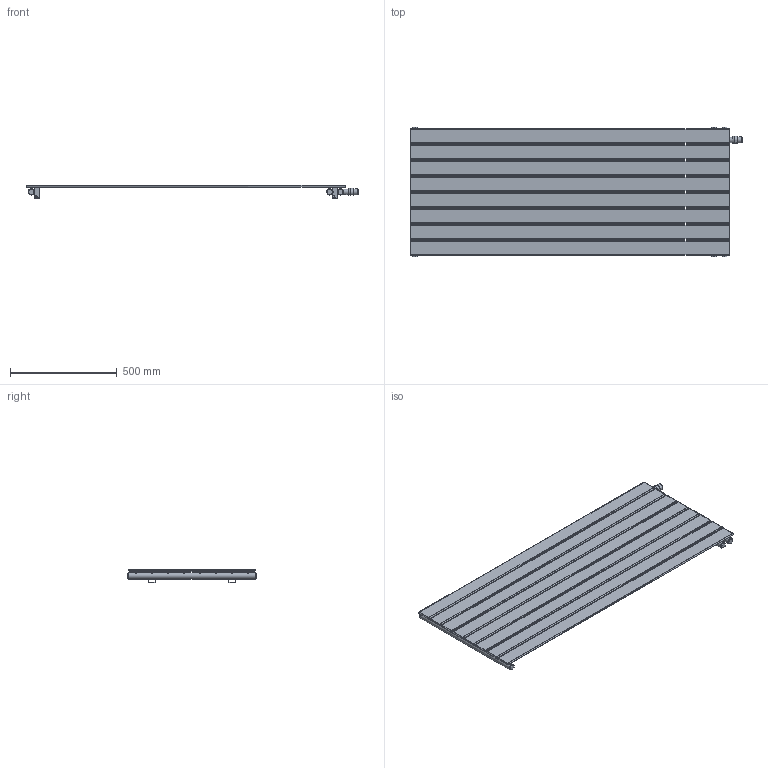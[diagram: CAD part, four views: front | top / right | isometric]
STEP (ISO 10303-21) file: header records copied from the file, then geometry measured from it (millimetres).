
FILE_DESCRIPTION(/* description */ (''),/* implementation_level */ '2;1');
FILE_NAME(/* name */ 'C:\Grzejniki\13DLUXRAD\pokojowe\NIAGARA\to\NIAGARA POZIOMA Z WKŁADKĄ TERMOSTATYCZNĄ 595x1500.iam.stp',/* time_stamp */ '2016-06-28T17:33:59+02:00',/* author */ ('m.szydziak'),/* organization */ (''),/* preprocessor_version */ 'ST-DEVELOPER v16.5',/* originating_system */ 'Autodesk Inventor 2017',/* authorisation */ '');
FILE_SCHEMA (('AUTOMOTIVE_DESIGN { 1 0 10303 214 3 1 1 }'));
Length unit declared in the file: millimetre
Products named in the file (10): NIAGARA POZIOMA Z WKŁADKĄ TERMOST
ATYCZNĄ 595x1500; NIAGARA 1500x595; 70x8x1,2x1504; michałek; ucho duze; ucho duze 2; poprzeczka 545; fi30x1,5x595; Głowica Termostatyczna; korek
Assembly tree (42 placements, depth 3):
  NIAGARA POZIOMA Z WKŁADKĄ TERMOST
ATYCZNĄ 595x1500
    NIAGARA 1500x595
      fi30x1,5x595  x2
      70x8x1,2x1504  x8
      michałek  x16
      ucho duze  x2
      ucho duze 2  x2
      korek  x4
      poprzeczka 545  x3
    fi30x1,5x595
    Głowica Termostatyczna
    korek  x2
Bounding box: 1556.85 x 607 x 62.5 mm (x, y, z)
Volume: 2543389.7 mm3; surface area: 3949647.3 mm2
Topology: 41 solids, 41 shells, 544 faces, 1203 edges, 741 vertices
Faces by surface type: plane 286, cylinder 188, sphere 64, torus 4, cone 2
Full cylindrical faces by diameter (mm): 8 x16, 9 x16, 10 x16, 11.5 x16, 18.631 x6, 24 x6, 25 x1, 27 x3, 28 x1, 30 x3
Entity records: 4113 total; most frequent: DIRECTION 730, CARTESIAN_POINT 701, ORIENTED_EDGE 548, AXIS2_PLACEMENT_3D 279, EDGE_CURVE 274, VERTEX_POINT 178, LINE 172, VECTOR 172
